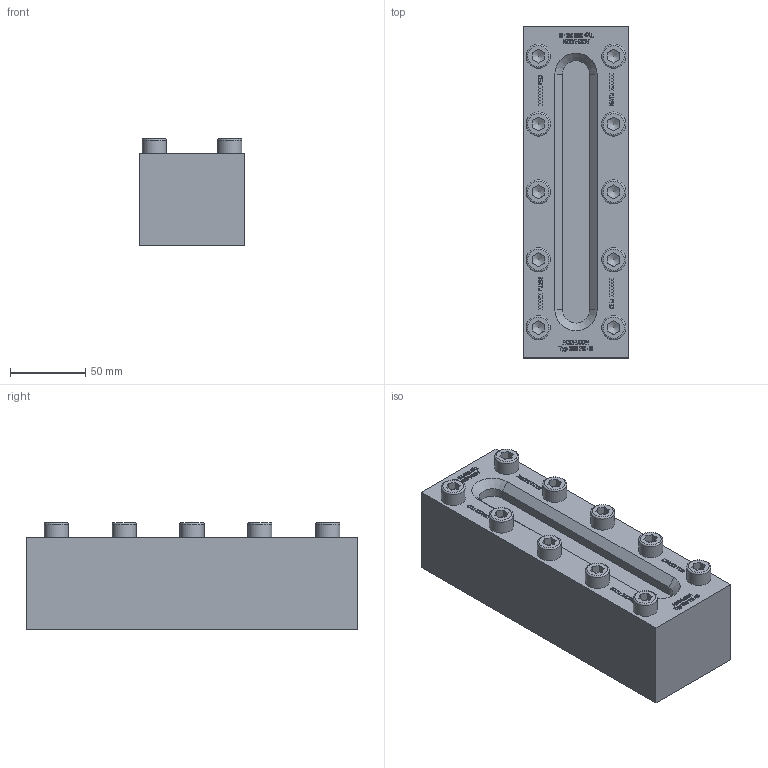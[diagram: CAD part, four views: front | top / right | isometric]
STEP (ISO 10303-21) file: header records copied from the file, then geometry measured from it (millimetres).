
FILE_DESCRIPTION(/* description */ (''),/* implementation_level */ '2;1');
FILE_NAME(/* name */ 'W:\Konstruktion_ACI\330\_Zeichnungen\STEP\ACI-330-220-40.stp',/* time_stamp */ '2022-03-01T17:09:43+01:00',/* author */ ('koslowksi'),/* organization */ (''),/* preprocessor_version */ 'ST-DEVELOPER v16.1',/* originating_system */ 'Autodesk Inventor 2016',/* authorisation */ '');
FILE_SCHEMA (('AUTOMOTIVE_DESIGN { 1 0 10303 214 3 1 1 }'));
Length unit declared in the file: centimetre
Products named in the file (1): ACI-330-220-40.stp
Bounding box: 70 x 220 x 70.9 mm (x, y, z)
Volume: 856162.7 mm3; surface area: 82935.2 mm2
Topology: 1 solids, 1 shells, 1216 faces, 3286 edges, 2186 vertices
Faces by surface type: plane 878, bspline 302, cylinder 14, cone 12, torus 10
Full cylindrical faces by diameter (mm): 16 x10
Entity records: 40052 total; most frequent: CARTESIAN_POINT 10665, ORIENTED_EDGE 6472, DIRECTION 4442, EDGE_CURVE 3236, LINE 2532, VECTOR 2532, VERTEX_POINT 2166, EDGE_LOOP 1360
